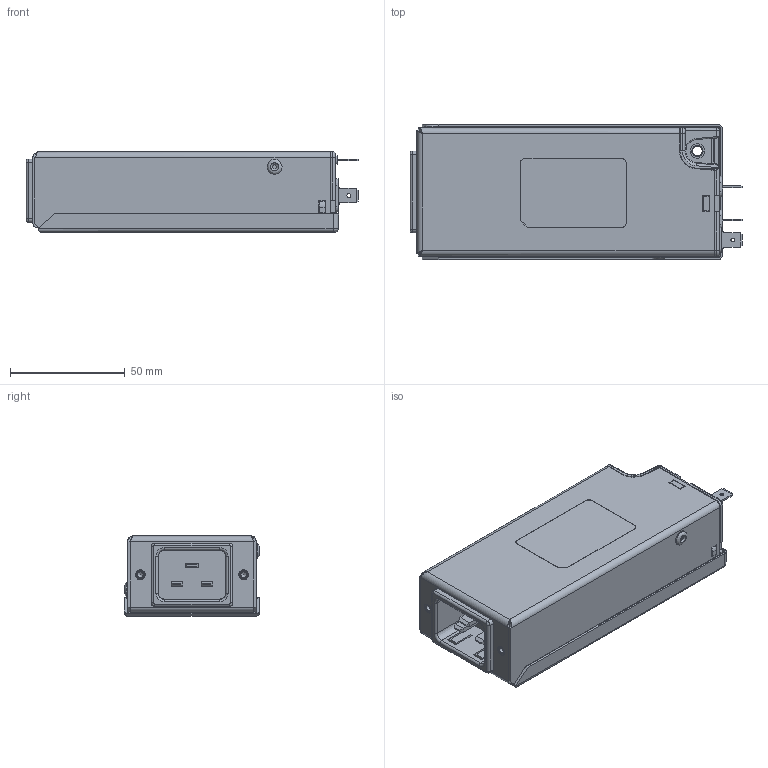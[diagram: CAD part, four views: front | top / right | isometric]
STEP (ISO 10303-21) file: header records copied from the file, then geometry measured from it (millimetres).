
FILE_DESCRIPTION(/* description */ (''),/* implementation_level */ '2;1');
FILE_NAME(/* name */ 'C:\Users\Christian.Ackermann\OneDrive - Schaffner EMV AG\Desktop\UMA_customerSTEP\FN264x-16_20-05.stp',/* time_stamp */ '2021-08-24T10:59:41+02:00',/* author */ ('Christian.Ackermann'),/* organization */ (''),/* preprocessor_version */ 'ST-DEVELOPER v18.1',/* originating_system */ 'Autodesk Inventor 2020',/* authorisation */ '');
FILE_SCHEMA (('AUTOMOTIVE_DESIGN { 1 0 10303 214 3 1 1 }'));
Length unit declared in the file: millimetre
Products named in the file (1): FN264x-16_20-05
Bounding box: 144.4 x 59 x 35.06 mm (x, y, z)
Volume: 241900.7 mm3; surface area: 44645.8 mm2
Topology: 1 solids, 1 shells, 1203 faces, 3065 edges, 1873 vertices
Faces by surface type: plane 592, cylinder 343, bspline 88, torus 87, cone 64, sphere 29
Full cylindrical faces by diameter (mm): 1.65 x3, 2 x2, 2.459 x2, 4.2 x1, 4.25 x2, 6.111 x1, 6.4 x2, 6.5 x2, 8.39 x2, 8.74 x3
Entity records: 39552 total; most frequent: CARTESIAN_POINT 8916, DIRECTION 6189, ORIENTED_EDGE 6108, EDGE_CURVE 3054, AXIS2_PLACEMENT_3D 2122, LINE 1945, VECTOR 1945, VERTEX_POINT 1873
